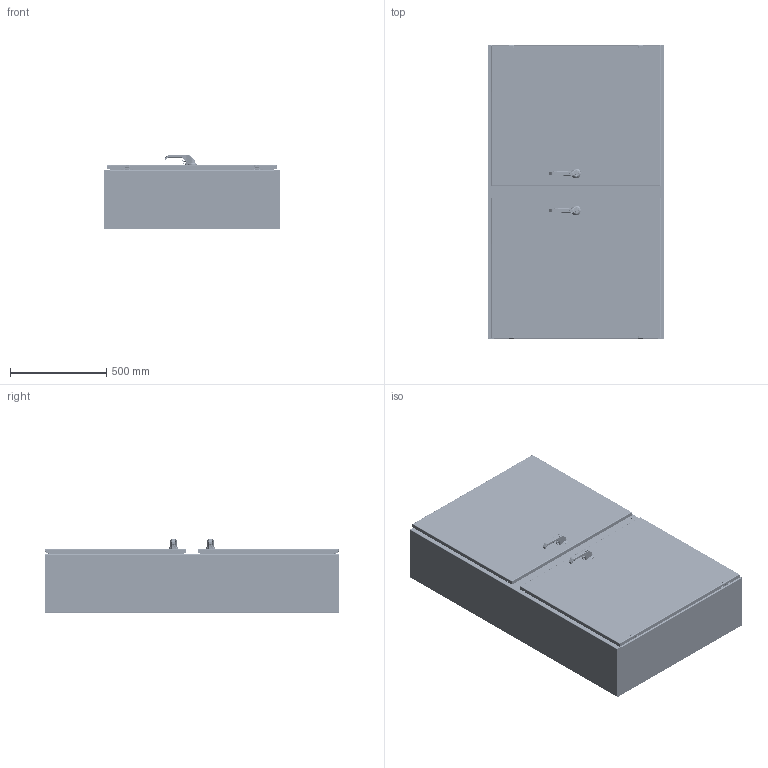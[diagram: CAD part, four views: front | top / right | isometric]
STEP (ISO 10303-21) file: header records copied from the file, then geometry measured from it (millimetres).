
FILE_DESCRIPTION((''),'2;1');
FILE_NAME('MODEL-325_ASM','2024-06-05T08:10:11',('mikek'),('SAGINAW CONTROL & ENGINEERING'),'CREO PARAMETRIC BY PTC INC, 2021284','CREO PARAMETRIC BY PTC INC, 2021284','');
FILE_SCHEMA(('AUTOMOTIVE_DESIGN { 1 0 10303 214 1 1 1 1 }'));
Length unit declared in the file: inch
Products named in the file (75): MODEL-325-BDY; MODEL-325-LS; MODEL-325-RS; 128379; 100028; 128379_ASM; MODEL-325-CCA-CHNL; 100062; 127618; 128380; 102535; MODEL-325-CCASSY_ASM; MODEL-325-R-DR; 100837; 100882; 111267; 100955_SCREW_MTG; 100955_PADLOCK_CATCH; 100955_SCREW_LARGE; 100955_INSERT_SHAFT; 100955_INSERT_PKH; 100955_GASKET; 100955_O-RING; 100955_BASE; 100955_SPRING; 100955_HANDLE; 100955_CAM_SHAFT; 100955_HANDLE_ASM; 100955_CAM_ADAPTER; 100955_EARTH_NUT; 100955_FLANGE_NUT; 100955_CAM_NUT; 100955_KEY_INSERT; 100955_SPRING_CAM; 100955_TORSION_SPRING; 100955_SCREW_INSERT; 100955_ASM; 102236; 100030; 102236_ASM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
Assembly tree (169 placements, depth 5):
  MODEL-325_ASM
    MODEL-325-BDY
    MODEL-325-LS
    MODEL-325-RS
    128379_ASM  x2
      128379
      100028
    MODEL-325-CCASSY_ASM
      MODEL-325-CCA-CHNL
      100062  x2
      127618  x2
      128380  x2
      102535  x8
    MODEL-325-RIGHT-DR-ASSY_ASM
      MODEL-325-R-DR
      100837  x5
      100882  x4
      111267
      100955_ASM
        100955_SCREW_MTG
        100955_PADLOCK_CATCH
        100955_SCREW_LARGE  x2
        100955_INSERT_SHAFT
        100955_INSERT_PKH
        100955_GASKET
        100955_O-RING
        100955_BASE
        100955_SPRING
        100955_HANDLE_ASM
          100955_HANDLE
          100955_CAM_SHAFT
        100955_CAM_ADAPTER
        100955_EARTH_NUT
        100955_FLANGE_NUT
        100955_CAM_NUT
        100955_KEY_INSERT
        100955_SPRING_CAM
        100955_TORSION_SPRING
        100955_SCREW_INSERT
      102236_ASM
        102236
        100030  x2
      MODEL-325-ROD-UPR-RD_ASM
        MODEL-325-ROD-UPR-RD
        128146
        128145
        128144
        102482  x2
      128143  x2
      112504  x2
      MODEL-325-ROD-LWR-RD_ASM
        MODEL-325-ROD-LWR-RD
        128146
        128145
        128144
        102482  x2
      MODEL-325-GSKT-R-DR
      126391_ASM  x2
        126391
      126393  x2
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Bounding box: 914.4 x 1524 x 383.31 mm (x, y, z)
Volume: 14361356.9 mm3; surface area: 12840822.5 mm2
Topology: 197 solids, 197 shells, 17220 faces, 42974 edges, 26092 vertices
Faces by surface type: plane 6133, cylinder 4543, bspline 3060, torus 1570, cone 1234, sphere 620, extrusion 60
Entity records: 373115 total; most frequent: CARTESIAN_POINT 148512, ORIENTED_EDGE 34746, DIRECTION 31641, PRESENTATION_STYLE_ASSIGNMENT 17447, STYLED_ITEM 17442, CURVE_STYLE 17373, EDGE_CURVE 17373, AXIS2_PLACEMENT_3D 11653
